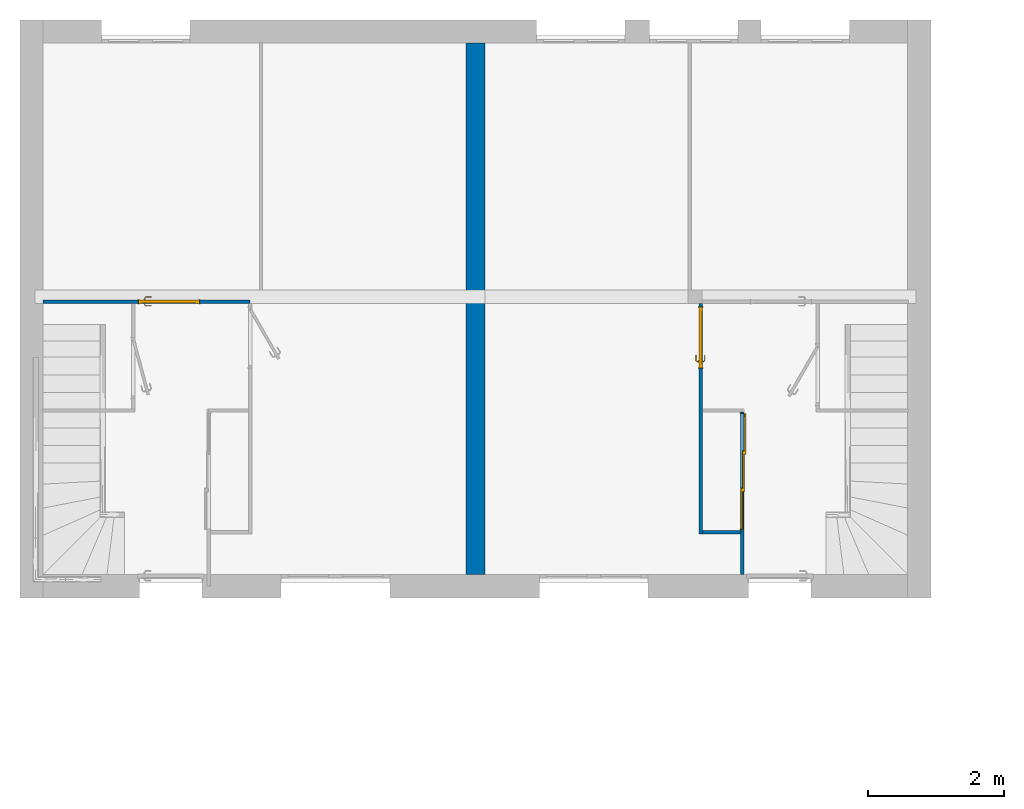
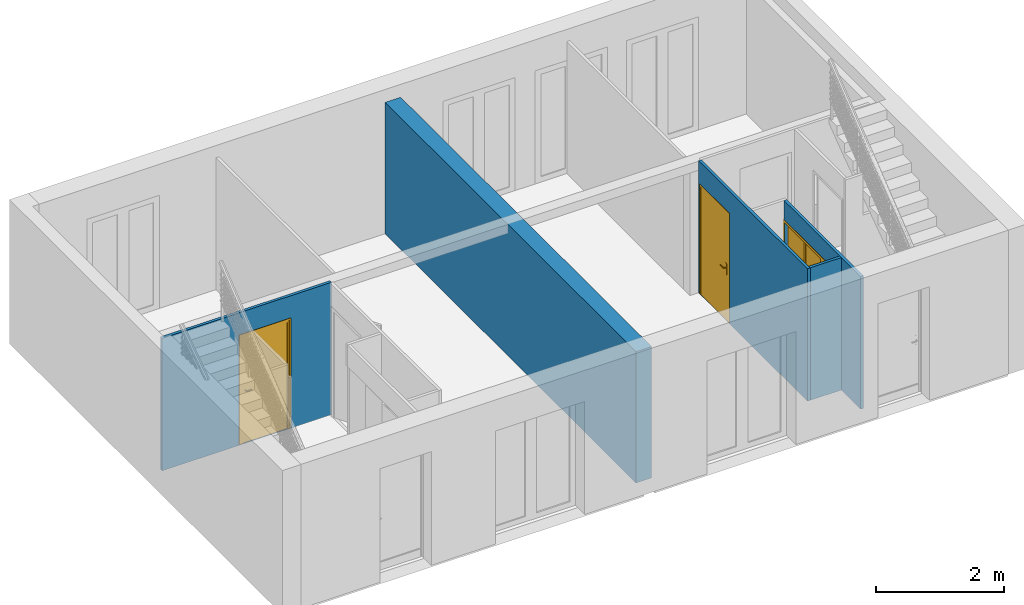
# One storey, part 3 of 12: 5 walls, 3 doors, 3 openings.
"""IFC2X3 building model written with IfcOpenShell, lengths in metres."""

from ifc_helpers import new_model, entity, si_unit, converted_unit, derived_unit, direction, frame, frame_2d, origin, origin_2d_with_axis, place, context, subcontext, project, spatial, polyline, circle_curve, parameter, trimmed, segment, composite_curve, rectangle, outline, extrude, faceted_brep, source, transform, mapped, material, material_list, layer, layer_set, layer_usage, type_object, type_shapes, element, fill, save


model = new_model("IFC2X3")

# Units and contexts
model_context = context("Model", 3, precision=1e-05, world=origin(), true_north=direction((6.12303176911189e-17, 1.0)))
context_of_model = context(None, 3, precision=1e-05, world=origin(), true_north=direction((6.12303176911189e-17, 1.0)))
body_context = subcontext(model_context, "Body", "Model", "MODEL_VIEW")
ifc_project = project(units=[si_unit("LENGTHUNIT", "METRE"), si_unit("AREAUNIT", "SQUARE_METRE"), si_unit("VOLUMEUNIT", "CUBIC_METRE"), converted_unit("PLANEANGLEUNIT", "DEGREE", entity("IfcRatioMeasure", 0.0174532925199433), si_unit("PLANEANGLEUNIT", "RADIAN"), dimensions=[0, 0, 0, 0, 0, 0, 0]), si_unit("MASSUNIT", "GRAM", prefix="KILO"), si_unit("TIMEUNIT", "SECOND"), si_unit("FREQUENCYUNIT", "HERTZ"), si_unit("THERMODYNAMICTEMPERATUREUNIT", "DEGREE_CELSIUS"), derived_unit("THERMALTRANSMITTANCEUNIT", [(si_unit("MASSUNIT", "GRAM", prefix="KILO"), 1), (si_unit("THERMODYNAMICTEMPERATUREUNIT", "KELVIN"), -1), (si_unit("TIMEUNIT", "SECOND"), -3)]), derived_unit("VOLUMETRICFLOWRATEUNIT", [(si_unit("LENGTHUNIT", "METRE"), 3), (si_unit("TIMEUNIT", "SECOND"), -1)]), si_unit("ELECTRICCURRENTUNIT", "AMPERE"), si_unit("ELECTRICVOLTAGEUNIT", "VOLT"), si_unit("POWERUNIT", "WATT"), si_unit("FORCEUNIT", "NEWTON", prefix="KILO"), si_unit("ILLUMINANCEUNIT", "LUX"), si_unit("LUMINOUSFLUXUNIT", "LUMEN"), si_unit("LUMINOUSINTENSITYUNIT", "CANDELA"), derived_unit("USERDEFINED", [(si_unit("MASSUNIT", "GRAM", prefix="KILO"), -1), (si_unit("LENGTHUNIT", "METRE"), -2), (si_unit("TIMEUNIT", "SECOND"), 3), (si_unit("LUMINOUSFLUXUNIT", "LUMEN"), 1)]), derived_unit("LINEARVELOCITYUNIT", [(si_unit("LENGTHUNIT", "METRE"), 1), (si_unit("TIMEUNIT", "SECOND"), -1)]), si_unit("PRESSUREUNIT", "PASCAL"), derived_unit("USERDEFINED", [(si_unit("LENGTHUNIT", "METRE"), -2), (si_unit("MASSUNIT", "GRAM", prefix="KILO"), 1), (si_unit("TIMEUNIT", "SECOND"), -2)])], contexts=[model_context, context_of_model])

# Site, building, storey
site_placement = place(None, origin())
site = spatial("IfcSite", under=ifc_project, at=site_placement, Name="Surface", CompositionType="ELEMENT")
building_placement = place(site_placement, origin())
building = spatial("IfcBuilding", under=site, at=building_placement, CompositionType="ELEMENT")
storey_placement = place(building_placement, origin())
storey = spatial("IfcBuildingStorey", under=building, at=storey_placement, Name="Rez de chaussée", CompositionType="ELEMENT", Elevation=0.0)

# Wall, opening, door
ifc_material_1 = material(Name="Maçonnerie - Isolant(1)")
ifc_layer_1 = layer(ifc_material_1, 0.05)
ifc_layer_set_1 = layer_set([ifc_layer_1], Name="Mur de base:Int. plâtre 50 mm")
ifc_layer_usage_1 = layer_usage(ifc_layer_set_1, "AXIS2", "NEGATIVE", 0.025)
wall_type_1 = type_object("IfcWallType", Name="Mur de base:Int. plâtre 50 mm", PredefinedType="STANDARD", material=ifc_layer_set_1)
wall_1_placement = place(storey_placement, frame((-11.2960888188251, 1.53925578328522, -0.00999999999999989)))
wall_1 = element("IfcWallStandardCase", 1, at=wall_1_placement, inside=storey, type_object=wall_type_1, material=ifc_layer_usage_1, Name="Mur de base:Int. plâtre 50 mm", ObjectType="Mur de base:Int. plâtre 50 mm", context=body_context, shape_type="SweptSolid", body=[
    extrude(rectangle(XDim=3.04499999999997, YDim=0.05, at=frame_2d((1.52249999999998, 0.0), x_axis=(-1.0, 0.0))), origin(), (0.0, 0.0, 1.0), 2.52),
])
opening_1_placement = place(wall_1_placement, frame((1.39999999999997, -0.025, 0.00999999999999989)))
opening_1 = element("IfcOpeningElement", 2, at=opening_1_placement, cuts=wall_1, Name="Int. Simple:PP (0.83m x 2.04m):1", ObjectType="Opening", context=body_context, shape_type="SweptSolid", body=[
    extrude(rectangle(XDim=2.075, YDim=0.9, at=frame_2d((1.0375, 0.45), x_axis=(1.0, 0.0))), frame((0.0, 0.0, 0.0), z_axis=(0.0, 1.0, 0.0), x_axis=(0.0, 0.0, 1.0)), (0.0, 0.0, 1.0), 0.05),
])
ifc_material_2 = material(Name="Finition Peinture - Blanc satiné")
ifc_material_3 = material(Name="Bois - Panneau de porte")
ifc_material_4 = material(Name="Bois - Cadre de porte")
ifc_material_list_1 = material_list([ifc_material_2, ifc_material_3, ifc_material_4])
ifc_material_list_2 = material_list([ifc_material_2, ifc_material_3, ifc_material_4])
door_style_1 = type_object("IfcDoorStyle", Name="PP (0.83m x 2.04m)", ConstructionType="NOTDEFINED", OperationType="SINGLE_SWING_RIGHT", ParameterTakesPrecedence=False, Sizeable=False, material=ifc_material_list_2)
shared_shape_1 = source(origin(), body_context, "Body", "Brep", [
    faceted_brep([(0.895000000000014, -0.00500000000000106, 0.870000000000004), (0.895000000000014, -0.00500000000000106, 1.08), (0.885352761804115, -0.00500000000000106, 1.08399601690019), (0.875000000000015, -0.00500000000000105, 1.08535898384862), (0.864647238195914, -0.00500000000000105, 1.08399601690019), (0.855000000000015, -0.00500000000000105, 1.08), (0.855000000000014, -0.00500000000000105, 0.870000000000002), (0.864647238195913, -0.00500000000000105, 0.866003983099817), (0.875000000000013, -0.00500000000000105, 0.86464101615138), (0.885352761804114, -0.00500000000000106, 0.866003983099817), (0.895000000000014, 0.0, 1.08), (0.895000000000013, 0.0, 0.870000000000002), (0.885352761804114, 0.0, 0.866003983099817), (0.875000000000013, 0.0, 0.86464101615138), (0.864647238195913, 0.0, 0.866003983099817), (0.855000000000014, 0.0, 0.870000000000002), (0.855000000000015, 0.0, 1.08), (0.864647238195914, 0.0, 1.08399601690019), (0.875000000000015, 0.0, 1.08535898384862), (0.885352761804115, 0.0, 1.08399601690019)], [[[0, 1, 2, 3, 4, 5, 6, 7, 8, 9]], [[10, 11, 12, 13, 14, 15, 16, 17, 18, 19]], [[9, 12, 11, 0]], [[8, 13, 12, 9]], [[7, 14, 13, 8]], [[7, 6, 15, 14]], [[15, 6, 5, 16]], [[4, 17, 16, 5]], [[3, 18, 17, 4]], [[2, 19, 18, 3]], [[2, 1, 10, 19]], [[11, 10, 1, 0]]]),
    faceted_brep([(0.895000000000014, 0.0399999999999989, 0.870000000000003), (0.895000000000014, 0.0399999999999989, 1.08), (0.885352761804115, 0.0399999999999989, 1.08399601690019), (0.875000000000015, 0.0399999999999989, 1.08535898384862), (0.864647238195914, 0.0399999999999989, 1.08399601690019), (0.855000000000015, 0.0399999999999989, 1.08), (0.855000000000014, 0.0399999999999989, 0.870000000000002), (0.864647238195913, 0.0399999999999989, 0.866003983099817), (0.875000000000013, 0.0399999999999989, 0.86464101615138), (0.885352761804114, 0.0399999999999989, 0.866003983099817), (0.875000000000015, 0.0449999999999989, 1.08535898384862), (0.885352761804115, 0.0449999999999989, 1.08399601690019), (0.895000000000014, 0.0449999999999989, 1.08), (0.895000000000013, 0.0449999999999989, 0.870000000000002), (0.885352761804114, 0.0449999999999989, 0.866003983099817), (0.875000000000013, 0.0449999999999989, 0.86464101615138), (0.864647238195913, 0.0449999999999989, 0.866003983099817), (0.855000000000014, 0.0449999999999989, 0.870000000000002), (0.855000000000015, 0.0449999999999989, 1.08), (0.864647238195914, 0.0449999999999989, 1.08399601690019)], [[[0, 1, 2, 3, 4, 5, 6, 7, 8, 9]], [[10, 11, 12, 13, 14, 15, 16, 17, 18, 19]], [[4, 19, 18, 5]], [[3, 10, 19, 4]], [[2, 11, 10, 3]], [[2, 1, 12, 11]], [[13, 12, 1, 0]], [[9, 14, 13, 0]], [[8, 15, 14, 9]], [[7, 16, 15, 8]], [[7, 6, 17, 16]], [[17, 6, 5, 18]]]),
    faceted_brep([(0.872974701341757, -0.0050000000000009, 1.00778044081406), (0.877025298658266, -0.00500000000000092, 1.00778044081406), (0.881000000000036, -0.00500000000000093, 1.00699999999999), (0.881000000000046, -0.00500000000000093, 0.992999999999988), (0.877025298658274, -0.00500000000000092, 0.99221955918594), (0.872974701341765, -0.0050000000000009, 0.992219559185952), (0.868999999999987, -0.00500000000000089, 0.993000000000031), (0.868999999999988, -0.00500000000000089, 1.007), (0.877025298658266, -0.0310045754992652, 1.00778044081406), (0.881000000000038, -0.0326509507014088, 1.007), (0.872974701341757, -0.0293267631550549, 1.00778044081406), (0.859298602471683, -0.0430028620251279, 1.00778044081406), (0.860976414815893, -0.0470534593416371, 1.00778044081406), (0.868999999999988, -0.0276803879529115, 1.007), (0.868999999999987, -0.0276803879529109, 0.993000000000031), (0.872974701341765, -0.0293267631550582, 0.992219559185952), (0.877025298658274, -0.0310045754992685, 0.99221955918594), (0.860976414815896, -0.047053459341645, 0.99221955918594), (0.859298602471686, -0.0430028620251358, 0.992219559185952), (0.881000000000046, -0.0326509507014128, 0.992999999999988), (0.862622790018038, -0.0510281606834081, 1.007), (0.85765222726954, -0.0390281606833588, 1.007), (0.857652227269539, -0.0390281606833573, 0.993000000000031), (0.862622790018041, -0.0510281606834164, 0.992999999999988), (0.774981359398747, -0.0510281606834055, 1.007), (0.774981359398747, -0.0470534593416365, 1.00778044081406), (0.774981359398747, -0.0430028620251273, 1.00778044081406), (0.774981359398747, -0.0390281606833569, 1.00699999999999), (0.774981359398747, -0.0390281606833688, 0.993000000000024), (0.774981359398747, -0.0430028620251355, 0.992219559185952), (0.774981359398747, -0.0470534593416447, 0.99221955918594), (0.774981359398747, -0.0510281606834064, 0.992999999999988), (0.81713998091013, -0.045028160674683, 1.0078786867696), (0.822692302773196, -0.051028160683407, 1.007), (0.816316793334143, -0.039028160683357, 1.007), (0.816316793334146, -0.0390281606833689, 0.993000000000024), (0.817139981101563, -0.0450281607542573, 0.992121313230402), (0.822692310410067, -0.0510281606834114, 0.992999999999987)], [[[0, 1, 2, 3, 4, 5, 6, 7]], [[2, 1, 8, 9]], [[1, 0, 10, 11, 12, 8]], [[0, 7, 13, 10]], [[14, 13, 7, 6]], [[5, 15, 14, 6]], [[5, 4, 16, 17, 18, 15]], [[3, 19, 16, 4]], [[9, 19, 3, 2]], [[9, 8, 12, 20]], [[10, 13, 21, 11]], [[22, 21, 13, 14]], [[14, 15, 18, 22]], [[16, 19, 23, 17]], [[20, 23, 19, 9]], [[24, 25, 26, 27, 28, 29, 30, 31]], [[32, 25, 33]], [[33, 25, 24]], [[33, 20, 12]], [[11, 34, 32]], [[34, 11, 21]], [[27, 26, 34]], [[32, 26, 25]], [[32, 34, 26]], [[32, 33, 12]], [[11, 32, 12]], [[21, 22, 35, 28, 27, 34]], [[36, 29, 35]], [[30, 36, 37]], [[18, 35, 22]], [[29, 28, 35]], [[30, 37, 31]], [[37, 17, 23]], [[36, 17, 37]], [[36, 18, 17]], [[36, 35, 18]], [[29, 36, 30]], [[23, 20, 33, 24, 31, 37]]]),
    faceted_brep([(0.872974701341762, 0.0449999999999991, 0.992219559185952), (0.877025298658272, 0.0449999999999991, 0.99221955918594), (0.881000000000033, 0.044999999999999, 0.992999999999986), (0.881000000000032, 0.044999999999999, 1.007), (0.877025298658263, 0.0449999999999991, 1.00778044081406), (0.872974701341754, 0.0449999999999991, 1.00778044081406), (0.868999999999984, 0.0449999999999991, 1.007), (0.868999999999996, 0.0449999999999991, 0.993000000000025), (0.868999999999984, 0.067485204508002, 1.007), (0.868999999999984, 0.0674852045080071, 0.993000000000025), (0.872974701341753, 0.0691315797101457, 1.00778044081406), (0.877025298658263, 0.070809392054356, 1.00778044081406), (0.860838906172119, 0.0869957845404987, 1.00778044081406), (0.859161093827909, 0.0829451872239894, 1.00778044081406), (0.881000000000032, 0.0724557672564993, 1.007), (0.881000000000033, 0.0724557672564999, 0.992999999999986), (0.877025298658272, 0.0708093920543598, 0.99221955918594), (0.872974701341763, 0.0691315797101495, 0.992219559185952), (0.859161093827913, 0.0829451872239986, 0.992219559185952), (0.860838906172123, 0.0869957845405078, 0.99221955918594), (0.857514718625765, 0.0789704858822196, 1.007), (0.857514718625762, 0.0789704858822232, 0.993000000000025), (0.862485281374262, 0.0909704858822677, 1.007), (0.862485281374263, 0.0909704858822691, 0.992999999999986), (0.77495421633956, 0.0829451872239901, 1.00778044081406), (0.77495421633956, 0.0869957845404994, 1.00778044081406), (0.77495421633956, 0.0909704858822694, 1.007), (0.77495421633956, 0.0909704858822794, 0.992999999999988), (0.77495421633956, 0.086995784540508, 0.99221955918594), (0.77495421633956, 0.0829451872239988, 0.992219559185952), (0.77495421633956, 0.0789704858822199, 0.993000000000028), (0.77495421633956, 0.0789704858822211, 1.007), (0.816234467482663, 0.0789704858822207, 1.007), (0.816234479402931, 0.0789704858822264, 0.993000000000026), (0.817057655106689, 0.0849704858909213, 1.0078786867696), (0.822554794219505, 0.0909704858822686, 1.007), (0.822554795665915, 0.0909704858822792, 0.992999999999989), (0.817057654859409, 0.0849704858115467, 0.992121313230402)], [[[0, 1, 2, 3, 4, 5, 6, 7]], [[8, 9, 7, 6]], [[5, 10, 8, 6]], [[5, 4, 11, 12, 13, 10]], [[3, 14, 11, 4]], [[14, 3, 2, 15]], [[2, 1, 16, 15]], [[1, 0, 17, 18, 19, 16]], [[0, 7, 9, 17]], [[20, 21, 9, 8]], [[8, 10, 13, 20]], [[14, 22, 12, 11]], [[23, 22, 14, 15]], [[15, 16, 19, 23]], [[17, 9, 21, 18]], [[24, 25, 26, 27, 28, 29, 30, 31]], [[21, 20, 32, 31, 30, 33]], [[34, 24, 32]], [[25, 34, 35]], [[13, 32, 20]], [[24, 31, 32]], [[25, 35, 26]], [[35, 12, 22]], [[34, 12, 35]], [[34, 13, 12]], [[34, 32, 13]], [[24, 34, 25]], [[22, 23, 36, 27, 26, 35]], [[37, 28, 36]], [[36, 28, 27]], [[36, 23, 19]], [[18, 33, 37]], [[33, 18, 21]], [[30, 29, 33]], [[37, 29, 28]], [[37, 33, 29]], [[37, 36, 19]], [[18, 37, 19]]]),
    faceted_brep([(0.935000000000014, 0.04, 2.04), (0.935000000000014, 0.04, 0.0), (0.105000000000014, 0.04, 0.0), (0.105000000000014, 0.04, 2.04), (0.935000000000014, 0.0, 2.04), (0.105000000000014, 0.0, 2.04), (0.105000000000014, 0.0, 0.0), (0.935000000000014, 0.0, 0.0)], [[[0, 1, 2, 3]], [[4, 5, 6, 7]], [[3, 5, 4, 0]], [[2, 6, 5, 3]], [[1, 7, 6, 2]], [[0, 4, 7, 1]]]),
    faceted_brep([(0.970000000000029, 0.0, 0.0), (0.935000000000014, 0.0, 0.0), (0.935000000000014, 0.040000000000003, 0.0), (0.920000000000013, 0.040000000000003, 0.0), (0.920000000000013, 0.050000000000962, 0.0), (0.970000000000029, 0.050000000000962, 0.0), (0.970000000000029, 0.050000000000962, 2.07500000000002), (0.970000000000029, 0.0, 2.07500000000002), (0.920000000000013, 0.050000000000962, 2.025), (0.120000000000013, 0.050000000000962, 2.025), (0.120000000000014, 0.050000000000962, 0.0), (0.0699999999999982, 0.050000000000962, 0.0), (0.0699999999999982, 0.050000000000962, 2.07500000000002), (0.920000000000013, 0.040000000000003, 2.025), (0.935000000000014, 0.040000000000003, 2.04), (0.105000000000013, 0.040000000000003, 2.04), (0.105000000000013, 0.040000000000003, 0.0), (0.120000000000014, 0.040000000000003, 0.0), (0.120000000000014, 0.040000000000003, 2.025), (0.935000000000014, 0.0, 2.04), (0.069999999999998, 0.0, 2.07500000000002), (0.0699999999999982, 0.0, 0.0), (0.105000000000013, 0.0, 0.0), (0.105000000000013, 0.0, 2.04)], [[[0, 1, 2, 3, 4, 5]], [[5, 6, 7, 0]], [[4, 8, 9, 10, 11, 12, 6, 5]], [[3, 13, 8, 4]], [[2, 14, 15, 16, 17, 18, 13, 3]], [[1, 19, 14, 2]], [[0, 7, 20, 21, 22, 23, 19, 1]], [[12, 11, 21, 20]], [[21, 11, 10, 17, 16, 22]], [[18, 17, 10, 9]], [[23, 22, 16, 15]], [[6, 12, 20, 7]], [[13, 18, 9, 8]], [[19, 23, 15, 14]]]),
    faceted_brep([(0.955000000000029, 0.050000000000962, 0.0), (0.955000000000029, 0.055000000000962, 0.0), (0.985000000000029, 0.055000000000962, 0.0), (0.985000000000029, 0.050000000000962, 0.0), (0.985000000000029, 0.050000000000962, 2.09000000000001), (0.0550000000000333, 0.050000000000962, 2.09000000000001), (0.0550000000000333, 0.050000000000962, 0.0), (0.0850000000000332, 0.050000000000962, 0.0), (0.0850000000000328, 0.050000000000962, 2.06000000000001), (0.955000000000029, 0.050000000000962, 2.06000000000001), (0.985000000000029, 0.055000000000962, 2.09000000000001), (0.955000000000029, 0.055000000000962, 2.06000000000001), (0.0850000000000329, 0.055000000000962, 2.06000000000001), (0.0850000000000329, 0.055000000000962, 0.0), (0.055000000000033, 0.055000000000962, 0.0), (0.0550000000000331, 0.055000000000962, 2.09000000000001)], [[[0, 1, 2, 3]], [[3, 4, 5, 6, 7, 8, 9, 0]], [[2, 10, 4, 3]], [[1, 11, 12, 13, 14, 15, 10, 2]], [[0, 9, 11, 1]], [[7, 6, 14, 13]], [[8, 7, 13, 12]], [[15, 14, 6, 5]], [[10, 15, 5, 4]], [[9, 8, 12, 11]]]),
    faceted_brep([(0.985000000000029, -0.005, 0.0), (0.985000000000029, -0.005, 2.09000000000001), (0.0550000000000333, -0.005, 2.09000000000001), (0.0550000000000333, -0.005, 0.0), (0.0850000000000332, -0.005, 0.0), (0.0850000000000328, -0.005, 2.06000000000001), (0.955000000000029, -0.005, 2.06000000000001), (0.955000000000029, -0.005, 0.0), (0.985000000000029, 0.0, 0.0), (0.985000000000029, 0.0, 2.09000000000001), (0.955000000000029, 0.0, 0.0), (0.955000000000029, 0.0, 2.06000000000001), (0.0850000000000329, 0.0, 2.06000000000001), (0.0850000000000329, 0.0, 0.0), (0.055000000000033, 0.0, 0.0), (0.0550000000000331, 0.0, 2.09000000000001)], [[[0, 1, 2, 3, 4, 5, 6, 7]], [[8, 9, 1, 0]], [[10, 11, 12, 13, 14, 15, 9, 8]], [[7, 6, 11, 10]], [[5, 4, 13, 12]], [[15, 14, 3, 2]], [[9, 15, 2, 1]], [[6, 5, 12, 11]], [[4, 3, 14, 13]], [[7, 10, 8, 0]]]),
])
type_shapes(door_style_1, [shared_shape_1])
door_1_placement = place(opening_1_placement, frame((0.970000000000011, 0.0499999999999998, 0.0), z_axis=(0.0, 0.0, 1.0), x_axis=(-1.0, 0.0, 0.0)))
door_1 = element("IfcDoor", 3, at=door_1_placement, inside=storey, type_object=door_style_1, material=ifc_material_list_1, Name="Int. Simple:PP (0.83m x 2.04m)", ObjectType="PP (0.83m x 2.04m)", OverallHeight=2.075, OverallWidth=0.9, context=body_context, shape_type="MappedRepresentation", body=[
    mapped(shared_shape_1, transform((0.0, 0.0, 0.0), scale=1.0)),
])
fill(opening_1, door_1)

ifc_layer_usage_2 = layer_usage(ifc_layer_set_1, "AXIS2", "NEGATIVE", 0.025)
wall_2_placement = place(storey_placement, frame((-1.62108881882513, -1.87574421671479, -0.00999999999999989), z_axis=(0.0, 0.0, 1.0), x_axis=(0.0, 1.0, 0.0)))
wall_2 = element("IfcWallStandardCase", 4, at=wall_2_placement, inside=storey, type_object=wall_type_1, material=ifc_layer_usage_2, Name="Mur de base:Int. plâtre 50 mm", ObjectType="Mur de base:Int. plâtre 50 mm", context=body_context, shape_type="SweptSolid", body=[
    extrude(rectangle(XDim=3.39, YDim=0.05, at=frame_2d((1.695, 0.0), x_axis=(-1.0, 0.0))), origin(), (0.0, 0.0, 1.0), 2.52),
])
opening_2_placement = place(wall_2_placement, frame((2.44000000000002, -0.025, 0.00999999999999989)))
opening_2 = element("IfcOpeningElement", 5, at=opening_2_placement, cuts=wall_2, Name="Int. Simple:PP (0.83m x 2.04m):1", ObjectType="Opening", context=body_context, shape_type="SweptSolid", body=[
    extrude(rectangle(XDim=2.075, YDim=0.9, at=frame_2d((1.0375, 0.45), x_axis=(1.0, 0.0))), frame((0.0, 0.0, 0.0), z_axis=(0.0, 1.0, 0.0), x_axis=(0.0, 0.0, 1.0)), (0.0, 0.0, 1.0), 0.05),
])
ifc_material_list_3 = material_list([ifc_material_2, ifc_material_3, ifc_material_4])
door_2_placement = place(opening_2_placement, frame((0.970000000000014, 0.05, 0.0), z_axis=(0.0, 0.0, 1.0), x_axis=(-1.0, 0.0, 0.0)))
door_2 = element("IfcDoor", 6, at=door_2_placement, inside=storey, type_object=door_style_1, material=ifc_material_list_3, Name="Int. Simple:PP (0.83m x 2.04m)", ObjectType="PP (0.83m x 2.04m)", OverallHeight=2.075, OverallWidth=0.9, context=body_context, shape_type="MappedRepresentation", body=[
    mapped(shared_shape_1, transform((0.0, 0.0, 0.0), scale=1.0)),
])
fill(opening_2, door_2)

# Wall
ifc_layer_usage_3 = layer_usage(ifc_layer_set_1, "AXIS2", "NEGATIVE", 0.025)
wall_3_placement = place(storey_placement, frame((-1.03608881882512, -1.85074421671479, -0.00999999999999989), z_axis=(0.0, 0.0, 1.0), x_axis=(-1.0, 0.0, 0.0)))
element("IfcWallStandardCase", 7, at=wall_3_placement, inside=storey, type_object=wall_type_1, material=ifc_layer_usage_3, Name="Mur de base:Int. plâtre 50 mm", ObjectType="Mur de base:Int. plâtre 50 mm", context=body_context, shape_type="SweptSolid", body=[
    extrude(rectangle(XDim=0.56000000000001, YDim=0.05, at=frame_2d((0.280000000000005, 0.0), x_axis=(-1.0, 0.0))), origin(), (0.0, 0.0, 1.0), 2.52),
])

# Wall, opening, door
ifc_layer_usage_4 = layer_usage(ifc_layer_set_1, "AXIS2", "NEGATIVE", 0.025)
wall_4_placement = place(storey_placement, frame((-1.01108881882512, -2.47574421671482, -0.00999999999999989), z_axis=(0.0, 0.0, 1.0), x_axis=(0.0, 1.0, 0.0)))
wall_4 = element("IfcWallStandardCase", 8, at=wall_4_placement, inside=storey, type_object=wall_type_1, material=ifc_layer_usage_4, Name="Mur de base:Int. plâtre 50 mm", ObjectType="Mur de base:Int. plâtre 50 mm", context=body_context, shape_type="SweptSolid", body=[
    extrude(rectangle(XDim=2.39000000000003, YDim=0.05, at=frame_2d((1.19500000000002, 0.0), x_axis=(-1.0, 0.0))), origin(), (0.0, 0.0, 1.0), 2.52),
])
opening_3_placement = place(wall_4_placement, frame((0.670000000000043, -0.025, 0.00999999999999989)))
opening_3 = element("IfcOpeningElement", 9, at=opening_3_placement, cuts=wall_4, Name="Placard coulissante - 3 panneaux:Placard coulissante - 3 panneaux:1", ObjectType="Opening", context=body_context, shape_type="SweptSolid", body=[
    extrude(rectangle(XDim=2.09999999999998, YDim=1.7, at=frame_2d((1.04999999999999, 0.85), x_axis=(1.0, 0.0))), frame((0.0, 0.0, 0.0), z_axis=(0.0, 1.0, 0.0), x_axis=(0.0, 0.0, 1.0)), (0.0, 0.0, 1.0), 0.05),
])
ifc_material_5 = material(Name="Placard - Profil")
ifc_material_6 = material(Name="Placard - Encadrement")
ifc_material_7 = material(Name="Placard - Porte")
ifc_material_list_4 = material_list([ifc_material_5, ifc_material_6, ifc_material_7])
ifc_material_list_5 = material_list([ifc_material_5, ifc_material_6, ifc_material_7])
door_style_2 = type_object("IfcDoorStyle", Name="Placard coulissante - 3 panneaux", ConstructionType="NOTDEFINED", OperationType="SLIDING_TO_RIGHT", ParameterTakesPrecedence=False, Sizeable=False, material=ifc_material_list_5)
shared_shape_2 = source(origin(), body_context, "Body", "SweptSolid", [
    extrude(outline(composite_curve([segment(polyline([(-0.0250000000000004, -0.00100000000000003), (0.0249999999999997, -0.00100000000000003)]), True, "CONTINUOUS"), segment(polyline([(0.0249999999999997, -0.00100000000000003), (0.0249999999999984, 0.00100000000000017)]), True, "CONTINUOUS"), segment(trimmed(circle_curve(frame_2d((0.0, -0.212860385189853), x_axis=(-1.0, 0.0)), 0.215316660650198), [parameter(263.332459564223)], [parameter(276.667540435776)], True, "PARAMETER"), True, "CONTINUOUS"), segment(polyline([(-0.0250000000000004, 0.00100000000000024), (-0.0250000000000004, -0.00100000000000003)]), True, "CONTINUOUS")], self_intersect=False)), frame((1.675, 0.00899999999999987, 0.0), z_axis=(0.0, 0.0, 1.0), x_axis=(-1.0, 0.0, 0.0)), (0.0, 0.0, 1.0), 2.1),
    extrude(outline(composite_curve([segment(polyline([(-0.0250000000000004, -0.00100000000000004), (0.0249999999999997, -0.00100000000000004)]), True, "CONTINUOUS"), segment(polyline([(0.0249999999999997, -0.00100000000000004), (0.0249999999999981, 0.00100000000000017)]), True, "CONTINUOUS"), segment(trimmed(circle_curve(frame_2d((0.0, -0.212860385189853), x_axis=(-1.0, 0.0)), 0.215316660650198), [parameter(263.332459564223)], [parameter(276.667540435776)], True, "PARAMETER"), True, "CONTINUOUS"), segment(polyline([(-0.0250000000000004, 0.00100000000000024), (-0.0250000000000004, -0.00100000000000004)]), True, "CONTINUOUS")], self_intersect=False)), frame((1.125, 0.00900000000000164, 0.0), z_axis=(0.0, 0.0, 1.0), x_axis=(-1.0, 0.0, 0.0)), (0.0, 0.0, 1.0), 2.1),
    extrude(outline(composite_curve([segment(polyline([(-0.0250000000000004, -0.00100000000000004), (0.0249999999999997, -0.00100000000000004)]), True, "CONTINUOUS"), segment(polyline([(0.0249999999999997, -0.00100000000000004), (0.0249999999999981, 0.00100000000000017)]), True, "CONTINUOUS"), segment(trimmed(circle_curve(frame_2d((0.0, -0.212860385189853), x_axis=(-1.0, 0.0)), 0.215316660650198), [parameter(263.332459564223)], [parameter(276.667540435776)], True, "PARAMETER"), True, "CONTINUOUS"), segment(polyline([(-0.0250000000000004, 0.00100000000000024), (-0.0250000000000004, -0.00100000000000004)]), True, "CONTINUOUS")], self_intersect=False)), frame((1.125, 0.0340000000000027, 0.0), z_axis=(0.0, 0.0, 1.0), x_axis=(-1.0, 0.0, 0.0)), (0.0, 0.0, 1.0), 2.1),
    extrude(outline(composite_curve([segment(polyline([(-0.0250000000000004, -0.00100000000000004), (0.0249999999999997, -0.00100000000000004)]), True, "CONTINUOUS"), segment(polyline([(0.0249999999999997, -0.00100000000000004), (0.0249999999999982, 0.00100000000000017)]), True, "CONTINUOUS"), segment(trimmed(circle_curve(frame_2d((0.0, -0.212860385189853), x_axis=(-1.0, 0.0)), 0.215316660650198), [parameter(263.332459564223)], [parameter(276.667540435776)], True, "PARAMETER"), True, "CONTINUOUS"), segment(polyline([(-0.0250000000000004, 0.00100000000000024), (-0.0250000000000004, -0.00100000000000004)]), True, "CONTINUOUS")], self_intersect=False)), frame((0.575000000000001, 0.0340000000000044, 0.0), z_axis=(0.0, 0.0, 1.0), x_axis=(-1.0, 0.0, 0.0)), (0.0, 0.0, 1.0), 2.1),
    extrude(outline(composite_curve([segment(polyline([(-0.0250000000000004, -0.00100000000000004), (0.0249999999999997, -0.00100000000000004)]), True, "CONTINUOUS"), segment(polyline([(0.0249999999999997, -0.00100000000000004), (0.0249999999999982, 0.00100000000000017)]), True, "CONTINUOUS"), segment(trimmed(circle_curve(frame_2d((0.0, -0.212860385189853), x_axis=(-1.0, 0.0)), 0.215316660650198), [parameter(263.332459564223)], [parameter(276.667540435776)], True, "PARAMETER"), True, "CONTINUOUS"), segment(polyline([(-0.0250000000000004, 0.00100000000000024), (-0.0250000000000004, -0.00100000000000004)]), True, "CONTINUOUS")], self_intersect=False)), frame((0.575000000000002, 0.0590000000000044, 0.0), z_axis=(0.0, 0.0, 1.0), x_axis=(-1.0, 0.0, 0.0)), (0.0, 0.0, 1.0), 2.1),
    extrude(outline(composite_curve([segment(polyline([(-0.0250000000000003, -0.00100000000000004), (0.0249999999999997, -0.00100000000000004)]), True, "CONTINUOUS"), segment(polyline([(0.0249999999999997, -0.00100000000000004), (0.0249999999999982, 0.00100000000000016)]), True, "CONTINUOUS"), segment(trimmed(circle_curve(frame_2d((0.0, -0.212860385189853), x_axis=(-1.0, 0.0)), 0.215316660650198), [parameter(263.332459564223)], [parameter(276.667540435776)], True, "PARAMETER"), True, "CONTINUOUS"), segment(polyline([(-0.0250000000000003, 0.00100000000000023), (-0.0250000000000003, -0.00100000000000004)]), True, "CONTINUOUS")], self_intersect=False)), frame((0.0249999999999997, 0.0590000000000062, 0.0), z_axis=(0.0, 0.0, 1.0), x_axis=(-1.0, 0.0, 0.0)), (0.0, 0.0, 1.0), 2.1),
    extrude(outline(polyline([(-1.06149999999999, -0.898), (1.08649999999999, -0.898), (1.08649999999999, 0.898), (-1.06149999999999, 0.898), (-1.06149999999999, 0.848), (1.03649999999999, 0.848), (1.03649999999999, -0.848), (-1.06149999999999, -0.848), (-1.06149999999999, -0.898)])), frame((0.85, -0.003, 1.06149999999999), z_axis=(0.0, 1.0, 0.0), x_axis=(0.0, 0.0, 1.0)), (0.0, 0.0, 1.0), 0.003),
    extrude(rectangle(XDim=0.020000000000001, YDim=0.6, at=origin_2d_with_axis()), frame((1.4, 0.0200000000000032, 0.0), z_axis=(0.0, 0.0, 1.0), x_axis=(0.0, 1.0, 0.0)), (0.0, 0.0, 1.0), 2.1),
    extrude(rectangle(XDim=0.600000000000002, YDim=0.02, at=origin_2d_with_axis()), frame((0.300000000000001, 0.0700000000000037, 0.0), z_axis=(0.0, 0.0, 1.0), x_axis=(-1.0, 0.0, 0.0)), (0.0, 0.0, 1.0), 2.1),
    extrude(rectangle(XDim=0.02, YDim=0.599999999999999, at=frame_2d((0.0, -2.77555756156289e-17), x_axis=(1.0, 0.0))), frame((0.85, 0.0450000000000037, 0.0), z_axis=(0.0, 0.0, 1.0), x_axis=(0.0, 1.0, 0.0)), (0.0, 0.0, 1.0), 2.1),
])
type_shapes(door_style_2, [shared_shape_2])
door_3_placement = place(opening_3_placement, frame((1.7, 0.0499999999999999, 0.0), z_axis=(0.0, 0.0, 1.0), x_axis=(-1.0, 0.0, 0.0)))
door_3 = element("IfcDoor", 10, at=door_3_placement, inside=storey, type_object=door_style_2, material=ifc_material_list_4, Name="Placard coulissante - 3 panneaux:Placard coulissante - 3 panneaux", ObjectType="Placard coulissante - 3 panneaux", OverallHeight=2.09999999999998, OverallWidth=1.7, context=body_context, shape_type="MappedRepresentation", body=[
    mapped(shared_shape_2, transform((0.0, 0.0, 0.0), scale=1.0)),
])
fill(opening_3, door_3)

# Wall
ifc_material_8 = material(Name="Maçonnerie - Isolant 1")
ifc_layer_2 = layer(ifc_material_8, 0.01)
ifc_material_9 = material(Name="Maçonnerie - Bloc de béton (2)")
ifc_layer_3 = layer(ifc_material_9, 0.2)
ifc_material_10 = material(Name="Maçonnerie - Isolant")
ifc_layer_4 = layer(ifc_material_10, 0.06)
ifc_layer_5 = layer(ifc_material_8, 0.01)
ifc_layer_set_2 = layer_set([ifc_layer_2, ifc_layer_3, ifc_layer_4, ifc_layer_5], Name="Mur de base:Mur de base Refend Ext. Parpaing 20 + Isolant 7")
ifc_layer_usage_5 = layer_usage(ifc_layer_set_2, "AXIS2", "NEGATIVE", 0.14)
wall_type_2 = type_object("IfcWallType", Name="Mur de base:Mur de base Refend Ext. Parpaing 20 + Isolant 7", PredefinedType="STANDARD", material=ifc_layer_set_2)
wall_5_placement = place(storey_placement, frame((-4.93608881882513, 5.34425578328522, 0.0), z_axis=(0.0, 0.0, 1.0), x_axis=(0.0, -1.0, 0.0)))
element("IfcWallStandardCase", 11, at=wall_5_placement, inside=storey, type_object=wall_type_2, material=ifc_layer_usage_5, Name="Mur de base:Mur de base Refend Ext. Parpaing 20 + Isolant 7", ObjectType="Mur de base:Mur de base Refend Ext. Parpaing 20 + Isolant 7", context=body_context, shape_type="SweptSolid", body=[
    extrude(rectangle(XDim=7.82000000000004, YDim=0.28, at=frame_2d((3.91000000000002, 2.77555756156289e-16), x_axis=(-1.0, 0.0))), origin(), (0.0, 0.0, 1.0), 2.498),
])

save(model, "model.ifc")
